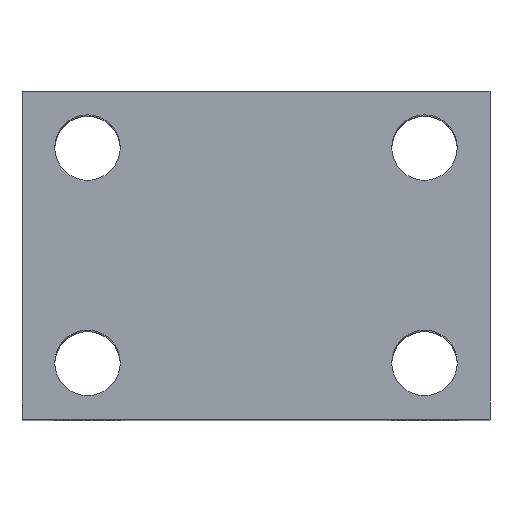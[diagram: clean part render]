
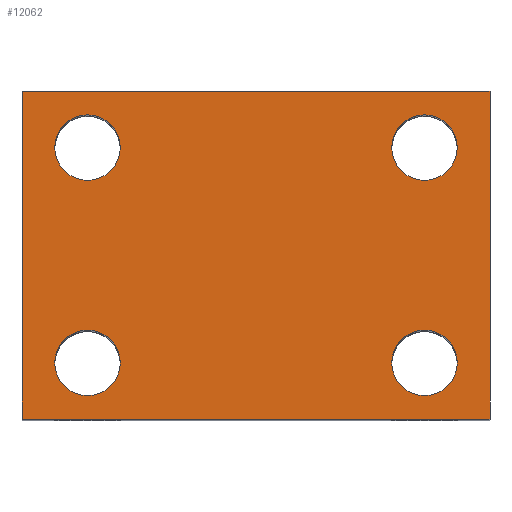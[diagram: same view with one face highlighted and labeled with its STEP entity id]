
A CAD part, top view. The second image highlights one B-rep face of the part: STEP entity #12062.
In plain terms, the highlighted planar face has unit normal (0, 0, 1).
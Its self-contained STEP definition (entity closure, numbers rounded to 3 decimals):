
#7 = EDGE_LOOP ( 'NONE', ( #4291, #631 ) ) ;
#631 = ORIENTED_EDGE ( 'NONE', *, *, #2097, .T. ) ;
#1320 = FACE_BOUND ( 'NONE', #7, .T. ) ;
#1466 = CIRCLE ( 'NONE', #13550, 3.5 ) ;
#1633 = ORIENTED_EDGE ( 'NONE', *, *, #11683, .F. ) ;
#1799 = FACE_BOUND ( 'NONE', #6188, .T. ) ;
#1824 = DIRECTION ( 'NONE',  ( 0., 0., -1. ) ) ;
#1963 = ORIENTED_EDGE ( 'NONE', *, *, #13032, .T. ) ;
#2097 = EDGE_CURVE ( 'NONE', #9433, #13075, #16454, .T. ) ;
#2185 = CARTESIAN_POINT ( 'NONE',  ( -18., 6., 40. ) ) ;
#2321 = VERTEX_POINT ( 'NONE', #12869 ) ;
#2335 = VERTEX_POINT ( 'NONE', #2839 ) ;
#2431 = DIRECTION ( 'NONE',  ( 0., 0., -1. ) ) ;
#2613 = LINE ( 'NONE', #13782, #3086 ) ;
#2831 = CARTESIAN_POINT ( 'NONE',  ( -18., 6., 40. ) ) ;
#2839 = CARTESIAN_POINT ( 'NONE',  ( -14.5, 29., 40. ) ) ;
#2926 = ORIENTED_EDGE ( 'NONE', *, *, #7926, .T. ) ;
#2973 = AXIS2_PLACEMENT_3D ( 'NONE', #15758, #7151, #17182 ) ;
#3072 = EDGE_CURVE ( 'NONE', #15522, #2335, #9680, .T. ) ;
#3086 = VECTOR ( 'NONE', #5200, 1000. ) ;
#3111 = EDGE_LOOP ( 'NONE', ( #1963, #16548 ) ) ;
#3490 = DIRECTION ( 'NONE',  ( 0., 0., -1. ) ) ;
#3659 = DIRECTION ( 'NONE',  ( -1., 0., 0. ) ) ;
#4112 = ORIENTED_EDGE ( 'NONE', *, *, #15977, .T. ) ;
#4220 = CARTESIAN_POINT ( 'NONE',  ( 18., 29., 40. ) ) ;
#4288 = DIRECTION ( 'NONE',  ( -1., 0., 0. ) ) ;
#4291 = ORIENTED_EDGE ( 'NONE', *, *, #17871, .T. ) ;
#4404 = EDGE_CURVE ( 'NONE', #16754, #7014, #17084, .T. ) ;
#4543 = LINE ( 'NONE', #14936, #16029 ) ;
#4615 = AXIS2_PLACEMENT_3D ( 'NONE', #2831, #12857, #4288 ) ;
#4652 = CARTESIAN_POINT ( 'NONE',  ( 25., 35., 40. ) ) ;
#5125 = CARTESIAN_POINT ( 'NONE',  ( -25., 35., 40. ) ) ;
#5172 = CIRCLE ( 'NONE', #5550, 3.5 ) ;
#5193 = FACE_OUTER_BOUND ( 'NONE', #10307, .T. ) ;
#5200 = DIRECTION ( 'NONE',  ( 1., 0., 0. ) ) ;
#5375 = PLANE ( 'NONE',  #15919 ) ;
#5445 = DIRECTION ( 'NONE',  ( -1., 0., 0. ) ) ;
#5458 = LINE ( 'NONE', #14964, #9268 ) ;
#5534 = CARTESIAN_POINT ( 'NONE',  ( 18., 29., 40. ) ) ;
#5550 = AXIS2_PLACEMENT_3D ( 'NONE', #5534, #15593, #6994 ) ;
#5669 = DIRECTION ( 'NONE',  ( -1., 0., 0. ) ) ;
#6188 = EDGE_LOOP ( 'NONE', ( #4112, #13215 ) ) ;
#6338 = DIRECTION ( 'NONE',  ( 1., 0., 0. ) ) ;
#6622 = VERTEX_POINT ( 'NONE', #10335 ) ;
#6994 = DIRECTION ( 'NONE',  ( -1., 0., 0. ) ) ;
#7014 = VERTEX_POINT ( 'NONE', #7524 ) ;
#7151 = DIRECTION ( 'NONE',  ( 0., 0., -1. ) ) ;
#7524 = CARTESIAN_POINT ( 'NONE',  ( 25., 0., 40. ) ) ;
#7807 = DIRECTION ( 'NONE',  ( 0., -1., 0. ) ) ;
#7926 = EDGE_CURVE ( 'NONE', #2335, #15522, #1466, .T. ) ;
#8239 = EDGE_CURVE ( 'NONE', #2321, #7014, #2613, .T. ) ;
#8267 = CIRCLE ( 'NONE', #4615, 3.5 ) ;
#8303 = CIRCLE ( 'NONE', #8585, 3.5 ) ;
#8314 = VERTEX_POINT ( 'NONE', #15322 ) ;
#8425 = CARTESIAN_POINT ( 'NONE',  ( -21.5, 6., 40. ) ) ;
#8536 = CARTESIAN_POINT ( 'NONE',  ( 14.5, 6., 40. ) ) ;
#8585 = AXIS2_PLACEMENT_3D ( 'NONE', #10447, #1824, #11870 ) ;
#8694 = ORIENTED_EDGE ( 'NONE', *, *, #8239, .T. ) ;
#9109 = CARTESIAN_POINT ( 'NONE',  ( -14.5, 6., 40. ) ) ;
#9233 = EDGE_CURVE ( 'NONE', #6622, #8314, #11373, .T. ) ;
#9268 = VECTOR ( 'NONE', #7807, 1000. ) ;
#9433 = VERTEX_POINT ( 'NONE', #9109 ) ;
#9679 = VERTEX_POINT ( 'NONE', #8536 ) ;
#9680 = CIRCLE ( 'NONE', #2973, 3.5 ) ;
#9879 = VECTOR ( 'NONE', #14713, 1000. ) ;
#10055 = CARTESIAN_POINT ( 'NONE',  ( -21.5, 29., 40. ) ) ;
#10307 = EDGE_LOOP ( 'NONE', ( #8694, #16966, #1633, #17359 ) ) ;
#10335 = CARTESIAN_POINT ( 'NONE',  ( 21.5, 29., 40. ) ) ;
#10447 = CARTESIAN_POINT ( 'NONE',  ( 18., 6., 40. ) ) ;
#10750 = EDGE_CURVE ( 'NONE', #12053, #2321, #5458, .T. ) ;
#11037 = CARTESIAN_POINT ( 'NONE',  ( -18., 29., 40. ) ) ;
#11340 = AXIS2_PLACEMENT_3D ( 'NONE', #2185, #12238, #3659 ) ;
#11373 = CIRCLE ( 'NONE', #18695, 3.5 ) ;
#11683 = EDGE_CURVE ( 'NONE', #12053, #16754, #4543, .T. ) ;
#11870 = DIRECTION ( 'NONE',  ( -1., 0., 0. ) ) ;
#12053 = VERTEX_POINT ( 'NONE', #12513 ) ;
#12062 = ADVANCED_FACE ( 'NONE', ( #16226, #1320, #1799, #12363, #5193 ), #5375, .F. ) ;
#12071 = CARTESIAN_POINT ( 'NONE',  ( 18., 6., 40. ) ) ;
#12238 = DIRECTION ( 'NONE',  ( 0., 0., -1. ) ) ;
#12363 = FACE_BOUND ( 'NONE', #3111, .T. ) ;
#12483 = DIRECTION ( 'NONE',  ( -1., 0., 0. ) ) ;
#12513 = CARTESIAN_POINT ( 'NONE',  ( -25., 35., 40. ) ) ;
#12592 = ORIENTED_EDGE ( 'NONE', *, *, #3072, .T. ) ;
#12857 = DIRECTION ( 'NONE',  ( 0., 0., -1. ) ) ;
#12869 = CARTESIAN_POINT ( 'NONE',  ( -25., 0., 40. ) ) ;
#13032 = EDGE_CURVE ( 'NONE', #8314, #6622, #5172, .T. ) ;
#13075 = VERTEX_POINT ( 'NONE', #8425 ) ;
#13215 = ORIENTED_EDGE ( 'NONE', *, *, #15014, .T. ) ;
#13525 = DIRECTION ( 'NONE',  ( -1., 0., 0. ) ) ;
#13550 = AXIS2_PLACEMENT_3D ( 'NONE', #11037, #2431, #12483 ) ;
#13782 = CARTESIAN_POINT ( 'NONE',  ( -25., 0., 40. ) ) ;
#13967 = CARTESIAN_POINT ( 'NONE',  ( 25., 35., 40. ) ) ;
#14019 = DIRECTION ( 'NONE',  ( 0., 0., -1. ) ) ;
#14250 = DIRECTION ( 'NONE',  ( 0., 0., -1. ) ) ;
#14713 = DIRECTION ( 'NONE',  ( 0., -1., 0. ) ) ;
#14936 = CARTESIAN_POINT ( 'NONE',  ( -25., 35., 40. ) ) ;
#14964 = CARTESIAN_POINT ( 'NONE',  ( -25., 35., 40. ) ) ;
#15014 = EDGE_CURVE ( 'NONE', #17726, #9679, #16412, .T. ) ;
#15155 = CARTESIAN_POINT ( 'NONE',  ( 21.5, 6., 40. ) ) ;
#15322 = CARTESIAN_POINT ( 'NONE',  ( 14.5, 29., 40. ) ) ;
#15522 = VERTEX_POINT ( 'NONE', #10055 ) ;
#15593 = DIRECTION ( 'NONE',  ( 0., 0., -1. ) ) ;
#15758 = CARTESIAN_POINT ( 'NONE',  ( -18., 29., 40. ) ) ;
#15919 = AXIS2_PLACEMENT_3D ( 'NONE', #5125, #14019, #5445 ) ;
#15977 = EDGE_CURVE ( 'NONE', #9679, #17726, #8303, .T. ) ;
#16029 = VECTOR ( 'NONE', #6338, 1000. ) ;
#16226 = FACE_BOUND ( 'NONE', #18714, .T. ) ;
#16412 = CIRCLE ( 'NONE', #16984, 3.5 ) ;
#16454 = CIRCLE ( 'NONE', #11340, 3.5 ) ;
#16548 = ORIENTED_EDGE ( 'NONE', *, *, #9233, .T. ) ;
#16754 = VERTEX_POINT ( 'NONE', #13967 ) ;
#16966 = ORIENTED_EDGE ( 'NONE', *, *, #4404, .F. ) ;
#16984 = AXIS2_PLACEMENT_3D ( 'NONE', #12071, #3490, #13525 ) ;
#17084 = LINE ( 'NONE', #4652, #9879 ) ;
#17182 = DIRECTION ( 'NONE',  ( -1., 0., 0. ) ) ;
#17359 = ORIENTED_EDGE ( 'NONE', *, *, #10750, .T. ) ;
#17726 = VERTEX_POINT ( 'NONE', #15155 ) ;
#17871 = EDGE_CURVE ( 'NONE', #13075, #9433, #8267, .T. ) ;
#18695 = AXIS2_PLACEMENT_3D ( 'NONE', #4220, #14250, #5669 ) ;
#18714 = EDGE_LOOP ( 'NONE', ( #12592, #2926 ) ) ;
